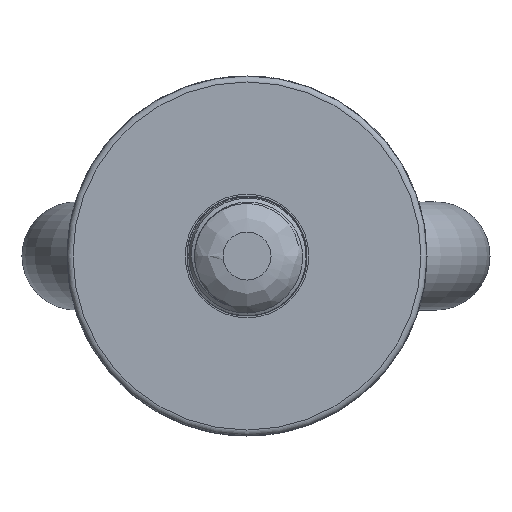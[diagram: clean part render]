
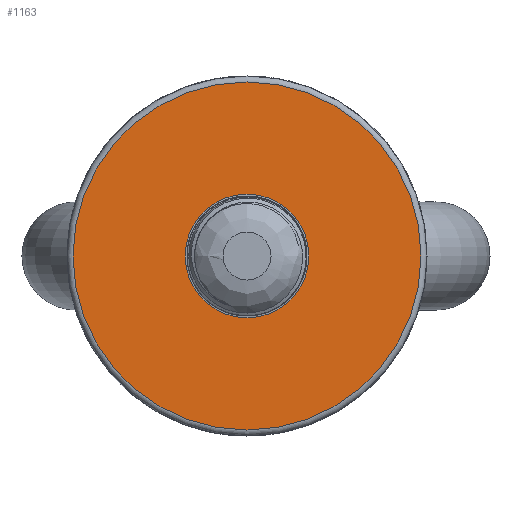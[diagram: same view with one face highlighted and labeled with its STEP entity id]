
A CAD part, front view. The second image highlights one B-rep face of the part: STEP entity #1163.
In plain terms, the highlighted planar face has unit normal (0, -1, 0).
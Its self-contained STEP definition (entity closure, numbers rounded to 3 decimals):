
#268=FACE_BOUND('',#1771,.T.);
#269=FACE_BOUND('',#1772,.T.);
#325=PLANE('',#5177);
#1163=ADVANCED_FACE('',(#268,#269),#325,.F.);
#1771=EDGE_LOOP('',(#2870));
#1772=EDGE_LOOP('',(#2871));
#2870=ORIENTED_EDGE('',*,*,#4571,.F.);
#2871=ORIENTED_EDGE('',*,*,#4570,.T.);
#4036=VERTEX_POINT('',#9446);
#4037=VERTEX_POINT('',#9449);
#4570=EDGE_CURVE('',#4036,#4036,#5008,.T.);
#4571=EDGE_CURVE('',#4037,#4037,#5009,.T.);
#5008=CIRCLE('',#5174,29.);
#5009=CIRCLE('',#5176,10.3);
#5174=AXIS2_PLACEMENT_3D('',#9445,#5721,#5722);
#5176=AXIS2_PLACEMENT_3D('',#9448,#5725,#5726);
#5177=AXIS2_PLACEMENT_3D('',#9450,#5727,#5728);
#5721=DIRECTION('',(0.,-1.,0.));
#5722=DIRECTION('',(1.,0.,0.));
#5725=DIRECTION('',(0.,-1.,0.));
#5726=DIRECTION('',(1.,0.,0.));
#5727=DIRECTION('',(0.,1.,0.));
#5728=DIRECTION('',(-1.,0.,0.));
#9445=CARTESIAN_POINT('',(0.,-11.2,0.));
#9446=CARTESIAN_POINT('',(29.,-11.2,0.));
#9448=CARTESIAN_POINT('',(0.,-11.2,0.));
#9449=CARTESIAN_POINT('',(10.3,-11.2,0.));
#9450=CARTESIAN_POINT('',(29.,-11.2,0.));
